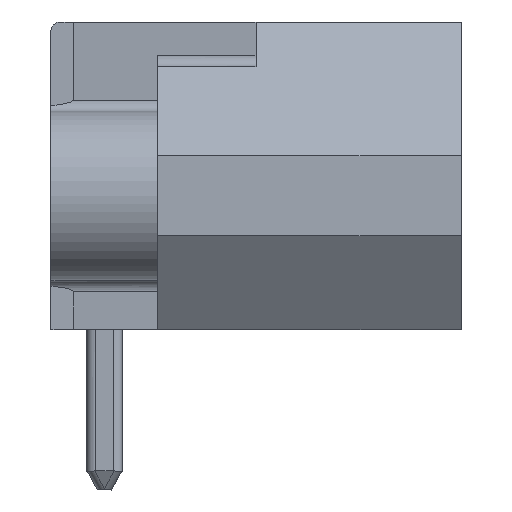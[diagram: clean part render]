
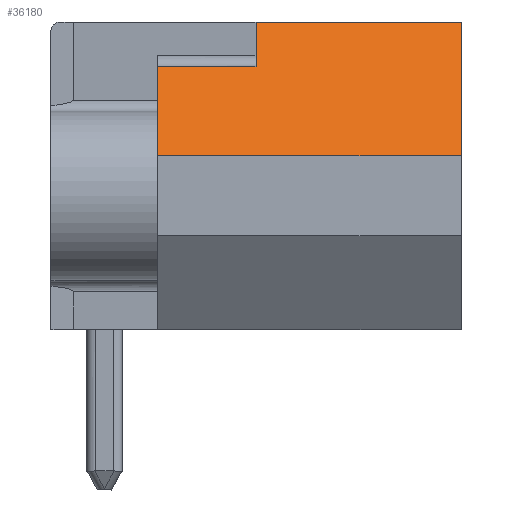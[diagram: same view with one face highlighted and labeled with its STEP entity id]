
A CAD part, left-side view. The second image highlights one B-rep face of the part: STEP entity #36180.
In plain terms, the highlighted planar face has unit normal (-0.819, 0, 0.574).
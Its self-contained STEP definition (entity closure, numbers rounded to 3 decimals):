
#4885 = CARTESIAN_POINT ( 'NONE',  ( 2.1, -4.6, 0. ) ) ;
#4886 = B_SPLINE_CURVE_WITH_KNOTS ( 'NONE', 3,
 ( #4946, #4945, #4944, #4943 ),
 .UNSPECIFIED., .F., .F.,
 ( 4, 4 ),
 ( 0., 1. ),
 .UNSPECIFIED. ) ;
#4892 = CARTESIAN_POINT ( 'NONE',  ( 1.4, -4.6, -1. ) ) ;
#4943 = CARTESIAN_POINT ( 'NONE',  ( 1.4, -4.6, -1. ) ) ;
#4944 = CARTESIAN_POINT ( 'NONE',  ( 1.633, -4.6, -0.667 ) ) ;
#4945 = CARTESIAN_POINT ( 'NONE',  ( 1.867, -4.6, -0.333 ) ) ;
#4946 = CARTESIAN_POINT ( 'NONE',  ( 2.1, -4.6, 0. ) ) ;
#5077 = DIRECTION ( 'NONE',  ( -0.574, 0., -0.819 ) ) ;
#5078 = VECTOR ( 'NONE', #5077, 1000. ) ;
#5079 = CARTESIAN_POINT ( 'NONE',  ( 1.05, -2.4, -1.5 ) ) ;
#5080 = LINE ( 'NONE', #5079, #5078 ) ;
#5086 = CARTESIAN_POINT ( 'NONE',  ( 0., -2.4, -2.999 ) ) ;
#5103 = DIRECTION ( 'NONE',  ( 0., 1., 0. ) ) ;
#5104 = VECTOR ( 'NONE', #5103, 1000. ) ;
#5105 = CARTESIAN_POINT ( 'NONE',  ( 1.4, -5.8, -1. ) ) ;
#5106 = LINE ( 'NONE', #5105, #5104 ) ;
#5113 = CARTESIAN_POINT ( 'NONE',  ( 1.4, -2.4, -1. ) ) ;
#6946 = CARTESIAN_POINT ( 'NONE',  ( 2.1, -9.2, 0. ) ) ;
#6963 = DIRECTION ( 'NONE',  ( 0., 1., 0. ) ) ;
#6964 = VECTOR ( 'NONE', #6963, 1000. ) ;
#6965 = CARTESIAN_POINT ( 'NONE',  ( 2.1, -5.8, 0. ) ) ;
#6966 = LINE ( 'NONE', #6965, #6964 ) ;
#6996 = CARTESIAN_POINT ( 'NONE',  ( 0., -9.2, -2.999 ) ) ;
#6997 = DIRECTION ( 'NONE',  ( 0., 1., 0. ) ) ;
#6998 = VECTOR ( 'NONE', #6997, 1000. ) ;
#6999 = CARTESIAN_POINT ( 'NONE',  ( 0., -5.8, -2.999 ) ) ;
#7000 = LINE ( 'NONE', #6999, #6998 ) ;
#7011 = DIRECTION ( 'NONE',  ( 0.574, 0., 0.819 ) ) ;
#7012 = DIRECTION ( 'NONE',  ( -0.819, 0., 0.574 ) ) ;
#7013 = CARTESIAN_POINT ( 'NONE',  ( 0., -9.2, -2.999 ) ) ;
#7014 = AXIS2_PLACEMENT_3D ( 'NONE', #7013, #7012, #7011 ) ;
#7015 = PLANE ( 'NONE',  #7014 ) ;
#7016 = FACE_OUTER_BOUND ( 'NONE', #36182, .T. ) ;
#7043 = DIRECTION ( 'NONE',  ( -0.574, 0., -0.819 ) ) ;
#7044 = VECTOR ( 'NONE', #7043, 1000. ) ;
#7045 = CARTESIAN_POINT ( 'NONE',  ( 2.1, -9.2, 0. ) ) ;
#7046 = LINE ( 'NONE', #7045, #7044 ) ;
#34738 = VERTEX_POINT ( 'NONE', #4892 ) ;
#34743 = EDGE_CURVE ( 'NONE', #34744, #34738, #4886, .T. ) ;
#34744 = VERTEX_POINT ( 'NONE', #4885 ) ;
#34818 = VERTEX_POINT ( 'NONE', #5086 ) ;
#34823 = EDGE_CURVE ( 'NONE', #34843, #34818, #5080, .T. ) ;
#34843 = VERTEX_POINT ( 'NONE', #5113 ) ;
#34847 = EDGE_CURVE ( 'NONE', #34738, #34843, #5106, .T. ) ;
#36135 = VERTEX_POINT ( 'NONE', #6946 ) ;
#36174 = EDGE_CURVE ( 'NONE', #36135, #34744, #6966, .T. ) ;
#36180 = ADVANCED_FACE ( 'NONE', ( #7016 ), #7015, .T. ) ;
#36182 = EDGE_LOOP ( 'NONE', ( #36184, #36187, #36194, #36197, #36225, #36227 ) ) ;
#36184 = ORIENTED_EDGE ( 'NONE', *, *, #34823, .T. ) ;
#36187 = ORIENTED_EDGE ( 'NONE', *, *, #36189, .F. ) ;
#36189 = EDGE_CURVE ( 'NONE', #36190, #34818, #7000, .T. ) ;
#36190 = VERTEX_POINT ( 'NONE', #6996 ) ;
#36194 = ORIENTED_EDGE ( 'NONE', *, *, #36195, .F. ) ;
#36195 = EDGE_CURVE ( 'NONE', #36135, #36190, #7046, .T. ) ;
#36197 = ORIENTED_EDGE ( 'NONE', *, *, #36174, .T. ) ;
#36225 = ORIENTED_EDGE ( 'NONE', *, *, #34743, .T. ) ;
#36227 = ORIENTED_EDGE ( 'NONE', *, *, #34847, .T. ) ;
